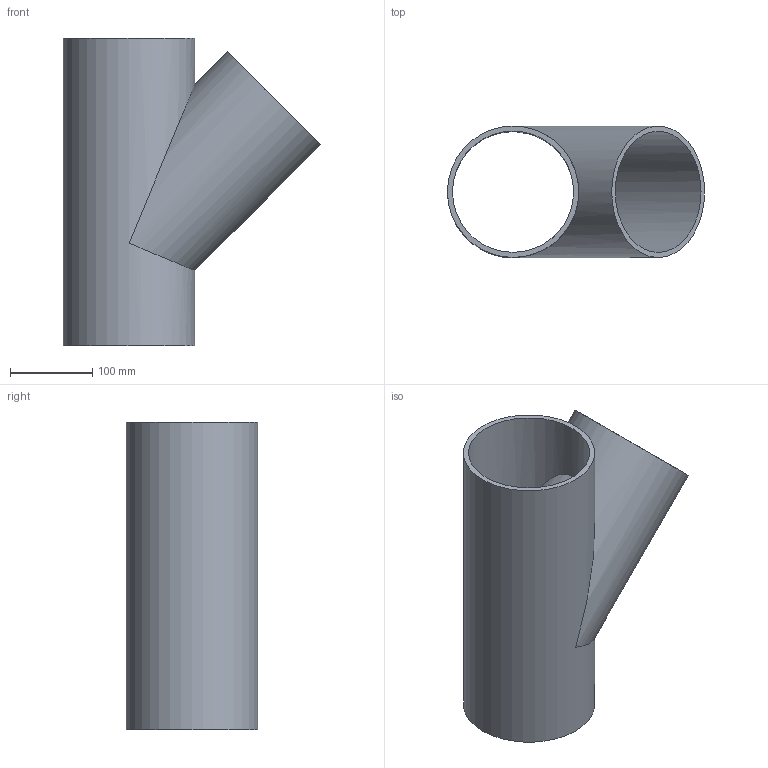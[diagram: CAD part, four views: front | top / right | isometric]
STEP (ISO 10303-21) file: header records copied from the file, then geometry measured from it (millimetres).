
FILE_DESCRIPTION(/* description */ (''),/* implementation_level */ '2;1');
FILE_NAME(/* name */ 'C:\Planerdaten\Export PLA\PRO_101557\stp\369145.stp',/* time_stamp */ '2021-09-30T15:08:17+02:00',/* author */ ('JANAN'),/* organization */ (''),/* preprocessor_version */ 'ST-DEVELOPER v16.13',/* originating_system */ 'Autodesk Inventor 2018',/* authorisation */ '');
FILE_SCHEMA (('AUTOMOTIVE_DESIGN { 1 0 10303 214 3 1 1 }'));
Length unit declared in the file: millimetre
Products named in the file (1): tmp64C7.tmp
Bounding box: 313.35 x 160 x 375 mm (x, y, z)
Volume: 1457276.4 mm3; surface area: 478931.2 mm2
Topology: 1 solids, 1 shells, 7 faces, 19 edges, 14 vertices
Faces by surface type: cylinder 4, plane 3
Full cylindrical faces by diameter (mm): 147.6 x2, 160 x2
Entity records: 228 total; most frequent: DIRECTION 36, CARTESIAN_POINT 28, ORIENTED_EDGE 20, AXIS2_PLACEMENT_3D 18, EDGE_LOOP 16, VERTEX_POINT 10, EDGE_CURVE 10, FACE_BOUND 9
